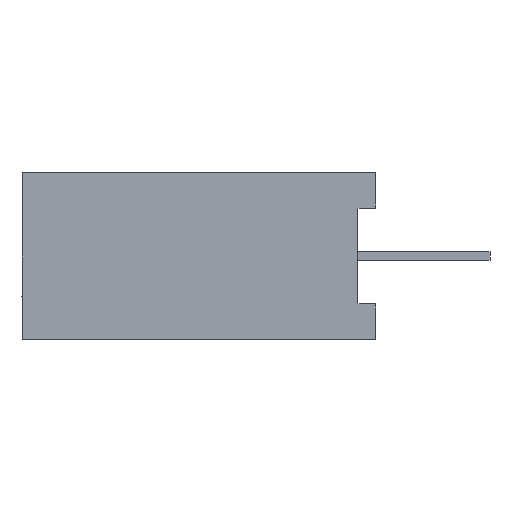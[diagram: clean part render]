
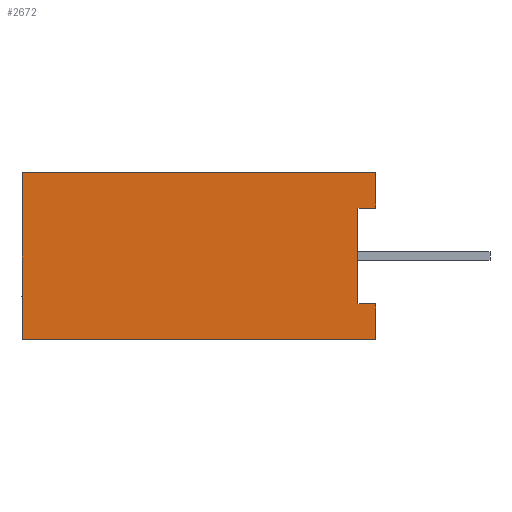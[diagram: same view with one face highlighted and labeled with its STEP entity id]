
A CAD part, left-side view. The second image highlights one B-rep face of the part: STEP entity #2672.
In plain terms, the highlighted planar face has unit normal (-1, 0, 0).
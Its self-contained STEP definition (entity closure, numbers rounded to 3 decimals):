
#2626 = VERTEX_POINT ( 'NONE', #8414 ) ;
#2631 = EDGE_CURVE ( 'NONE', #2632, #2650, #8408, .T. ) ;
#2632 = VERTEX_POINT ( 'NONE', #8468 ) ;
#2638 = EDGE_CURVE ( 'NONE', #2639, #2640, #8460, .T. ) ;
#2639 = VERTEX_POINT ( 'NONE', #8453 ) ;
#2640 = VERTEX_POINT ( 'NONE', #8452 ) ;
#2647 = VERTEX_POINT ( 'NONE', #8441 ) ;
#2649 = EDGE_CURVE ( 'NONE', #2650, #2647, #8440, .T. ) ;
#2650 = VERTEX_POINT ( 'NONE', #8502 ) ;
#2660 = ORIENTED_EDGE ( 'NONE', *, *, #2694, .T. ) ;
#2661 = ORIENTED_EDGE ( 'NONE', *, *, #2631, .T. ) ;
#2672 = ADVANCED_FACE ( 'NONE', ( #8474 ), #8471, .F. ) ;
#2673 = EDGE_LOOP ( 'NONE', ( #2674, #2675, #2678, #2681, #2683, #2684, #2660, #2661 ) ) ;
#2674 = ORIENTED_EDGE ( 'NONE', *, *, #2649, .T. ) ;
#2675 = ORIENTED_EDGE ( 'NONE', *, *, #2676, .F. ) ;
#2676 = EDGE_CURVE ( 'NONE', #2677, #2647, #8531, .T. ) ;
#2677 = VERTEX_POINT ( 'NONE', #8527 ) ;
#2678 = ORIENTED_EDGE ( 'NONE', *, *, #2679, .F. ) ;
#2679 = EDGE_CURVE ( 'NONE', #2680, #2677, #8526, .T. ) ;
#2680 = VERTEX_POINT ( 'NONE', #8522 ) ;
#2681 = ORIENTED_EDGE ( 'NONE', *, *, #2682, .F. ) ;
#2682 = EDGE_CURVE ( 'NONE', #2639, #2680, #8521, .T. ) ;
#2683 = ORIENTED_EDGE ( 'NONE', *, *, #2638, .T. ) ;
#2684 = ORIENTED_EDGE ( 'NONE', *, *, #2686, .T. ) ;
#2686 = EDGE_CURVE ( 'NONE', #2640, #2626, #8517, .T. ) ;
#2694 = EDGE_CURVE ( 'NONE', #2626, #2632, #8564, .T. ) ;
#8407 = CARTESIAN_POINT ( 'NONE',  ( -9.55, -0.508, -2.4 ) ) ;
#8408 = LINE ( 'NONE', #8407, #8470 ) ;
#8414 = CARTESIAN_POINT ( 'NONE',  ( -9.55, 9.692, 2.4 ) ) ;
#8438 = VECTOR ( 'NONE', #8503, 1000. ) ;
#8439 = CARTESIAN_POINT ( 'NONE',  ( -9.55, -0.508, 2.4 ) ) ;
#8440 = LINE ( 'NONE', #8439, #8438 ) ;
#8441 = CARTESIAN_POINT ( 'NONE',  ( -9.55, -0.508, -1.384 ) ) ;
#8452 = CARTESIAN_POINT ( 'NONE',  ( -9.55, -0.508, 2.4 ) ) ;
#8453 = CARTESIAN_POINT ( 'NONE',  ( -9.55, -0.508, 1.384 ) ) ;
#8454 = DIRECTION ( 'NONE',  ( 0., 0., 1. ) ) ;
#8455 = VECTOR ( 'NONE', #8454, 1000. ) ;
#8456 = CARTESIAN_POINT ( 'NONE',  ( -9.55, -0.508, 2.4 ) ) ;
#8460 = LINE ( 'NONE', #8456, #8455 ) ;
#8468 = CARTESIAN_POINT ( 'NONE',  ( -9.55, 9.692, -2.4 ) ) ;
#8469 = DIRECTION ( 'NONE',  ( 0., -1., 0. ) ) ;
#8470 = VECTOR ( 'NONE', #8469, 1000. ) ;
#8471 = PLANE ( 'NONE',  #8473 ) ;
#8472 = CARTESIAN_POINT ( 'NONE',  ( -9.55, 9.692, -2.4 ) ) ;
#8473 = AXIS2_PLACEMENT_3D ( 'NONE', #8472, #8533, #8532 ) ;
#8474 = FACE_OUTER_BOUND ( 'NONE', #2673, .T. ) ;
#8502 = CARTESIAN_POINT ( 'NONE',  ( -9.55, -0.508, -2.4 ) ) ;
#8503 = DIRECTION ( 'NONE',  ( 0., 0., 1. ) ) ;
#8514 = DIRECTION ( 'NONE',  ( 0., 1., 0. ) ) ;
#8515 = VECTOR ( 'NONE', #8514, 1000. ) ;
#8516 = CARTESIAN_POINT ( 'NONE',  ( -9.55, 9.692, 2.4 ) ) ;
#8517 = LINE ( 'NONE', #8516, #8515 ) ;
#8518 = DIRECTION ( 'NONE',  ( 0., 1., 0. ) ) ;
#8519 = VECTOR ( 'NONE', #8518, 1000. ) ;
#8520 = CARTESIAN_POINT ( 'NONE',  ( -9.55, -0.508, 1.384 ) ) ;
#8521 = LINE ( 'NONE', #8520, #8519 ) ;
#8522 = CARTESIAN_POINT ( 'NONE',  ( -9.55, 0., 1.384 ) ) ;
#8523 = DIRECTION ( 'NONE',  ( 0., 0., -1. ) ) ;
#8524 = VECTOR ( 'NONE', #8523, 1000. ) ;
#8525 = CARTESIAN_POINT ( 'NONE',  ( -9.55, 0., -1.384 ) ) ;
#8526 = LINE ( 'NONE', #8525, #8524 ) ;
#8527 = CARTESIAN_POINT ( 'NONE',  ( -9.55, 0., -1.384 ) ) ;
#8528 = DIRECTION ( 'NONE',  ( 0., -1., 0. ) ) ;
#8529 = VECTOR ( 'NONE', #8528, 1000. ) ;
#8530 = CARTESIAN_POINT ( 'NONE',  ( -9.55, -0.508, -1.384 ) ) ;
#8531 = LINE ( 'NONE', #8530, #8529 ) ;
#8532 = DIRECTION ( 'NONE',  ( 0., 0., -1. ) ) ;
#8533 = DIRECTION ( 'NONE',  ( 1., 0., 0. ) ) ;
#8561 = DIRECTION ( 'NONE',  ( 0., 0., -1. ) ) ;
#8562 = VECTOR ( 'NONE', #8561, 1000. ) ;
#8563 = CARTESIAN_POINT ( 'NONE',  ( -9.55, 9.692, -2.4 ) ) ;
#8564 = LINE ( 'NONE', #8563, #8562 ) ;
